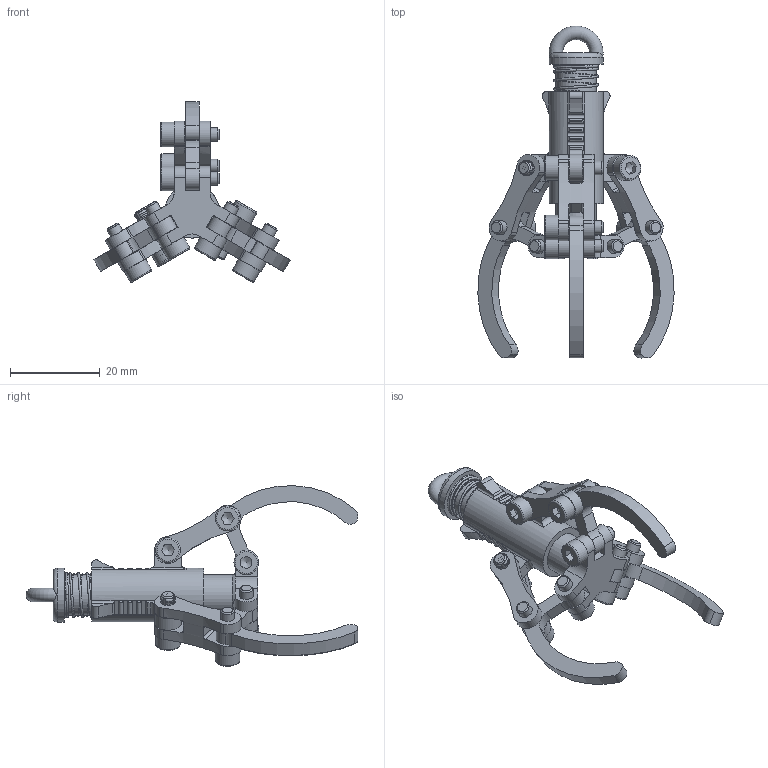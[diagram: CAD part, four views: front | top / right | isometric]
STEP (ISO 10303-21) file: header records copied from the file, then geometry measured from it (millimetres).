
FILE_DESCRIPTION(/* description */ ('','CAx-IF Rec.Pracs.---Representation and Presentation of Product Manufacturing Information (PMI)---4.0---2014-10-13'),/* implementation_level */ '2;1');
FILE_NAME(/* name */ 'Assieme2.stp',/* time_stamp */ '2026-05-11T20:09:32+02:00',/* author */ ('R5800u'),/* organization */ (''),/* preprocessor_version */ 'ST-DEVELOPER v20',/* originating_system */ 'Autodesk Inventor 2025',/* authorisation */ '');
FILE_SCHEMA (('TECHNICAL_DATA_PACKAGING','AP242_MANAGED_MODEL_BASED_3D_ENGINEERING_MIM_LF { 1 0 10303 442 1 1 4 }'));
Length unit declared in the file: millimetre
Products named in the file (9): Assieme1; Parte1; Parte3; Parte4; Parte2; AS 1420 - 1973 - M3 x 10; Molla di compressione1; Parte5; vite
Assembly tree (20 placements, depth 2):
  Assieme1
    Parte1
    Parte3
    Parte4  x3
    Parte2  x3
    AS 1420 - 1973 - M3 x 10  x9
    Molla di compressione1
    Parte5
    vite
Bounding box: 43.66 x 73.84 x 40.18 mm (x, y, z)
Volume: 8853.7 mm3; surface area: 11048.1 mm2
Topology: 20 solids, 22 shells, 536 faces, 1410 edges, 926 vertices
Faces by surface type: cylinder 234, plane 227, torus 36, cone 24, bspline 15
Full cylindrical faces by diameter (mm): 1.8 x4, 3 x12, 3.2 x27, 5 x1, 5.5 x9, 9 x1, 9.2 x1, 9.5 x2, 12 x2
Entity records: 15323 total; most frequent: CARTESIAN_POINT 5380, DIRECTION 1945, ORIENTED_EDGE 1706, EDGE_CURVE 861, AXIS2_PLACEMENT_3D 784, VERTEX_POINT 562, STYLED_ITEM 385, LINE 377
